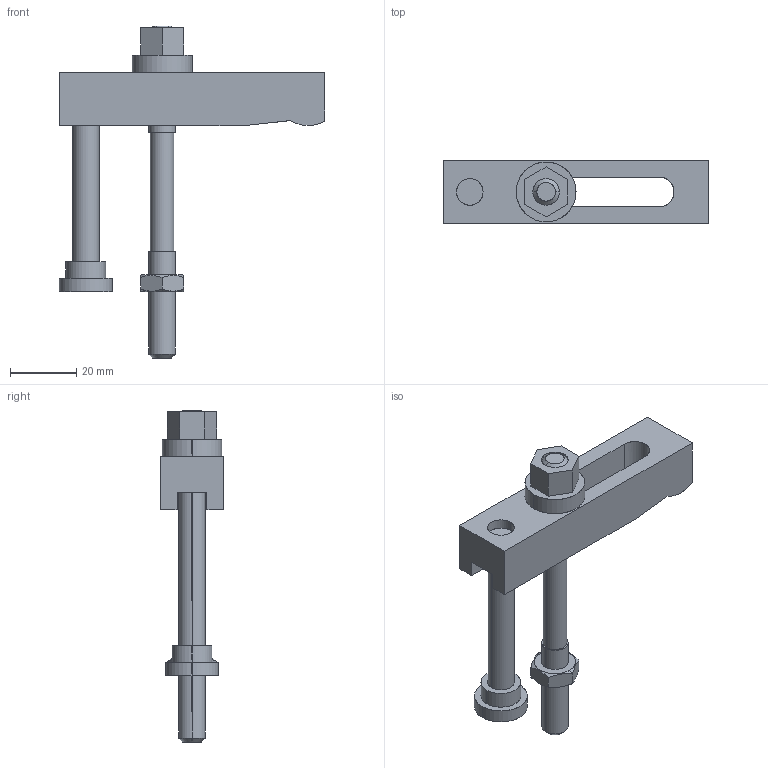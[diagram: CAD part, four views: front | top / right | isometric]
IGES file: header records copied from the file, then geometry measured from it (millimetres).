
Start section: SolidWorks IGES file using analytic representation for surfaces
Global section: file name: X:\11_SW2020-Inv2020\00_全2021-11新製品まで\b\BJ156-08080B2\bj156-08080b2.IGS; native system: SolidWorks 2020; preprocessor: SolidWorks 2020; author: ImaoCorp; date: 211025.101621; units: millimetre
Bounding box: 80 x 19 x 100 mm (x, y, z)
Surface area: 13883.9 mm2 (no closed solid volume)
Topology: 0 solids, 0 shells, 69 faces, 1197 edges, 1197 vertices
Faces by surface type: bspline 36, revolution 33
